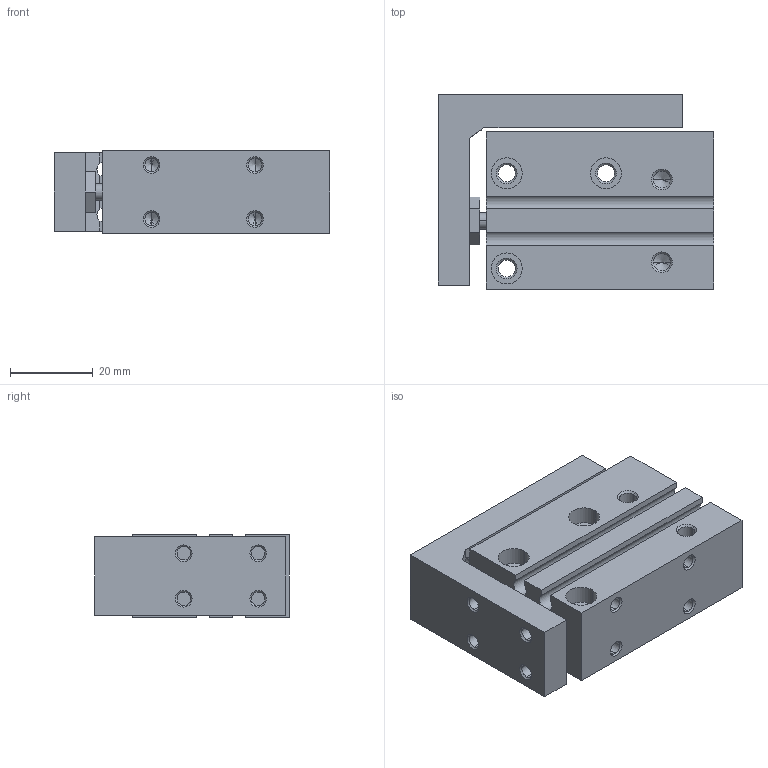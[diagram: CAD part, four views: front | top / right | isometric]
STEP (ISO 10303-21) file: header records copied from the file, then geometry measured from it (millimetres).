
FILE_DESCRIPTION (( 'STEP AP203' ), '1' );
FILE_NAME ('CXH10-20.STEP', '2020-04-16T18:06:46', ( '' ), ( '' ), 'SwSTEP 2.0', 'SolidWorks 2019', '' );
FILE_SCHEMA (( 'CONFIG_CONTROL_DESIGN' ));
Length unit declared in the file: millimetre
Products named in the file (1): CXH10-20
Bounding box: 66.5 x 47 x 20 mm (x, y, z)
Volume: 48392.5 mm3; surface area: 19937.6 mm2
Topology: 2 solids, 2 shells, 208 faces, 495 edges, 286 vertices
Faces by surface type: cone 88, cylinder 76, plane 44
Entity records: 5972 total; most frequent: DIRECTION 1093, CARTESIAN_POINT 1048, ORIENTED_EDGE 934, EDGE_CURVE 467, AXIS2_PLACEMENT_3D 421, VERTEX_POINT 286, EDGE_LOOP 253, LINE 251
